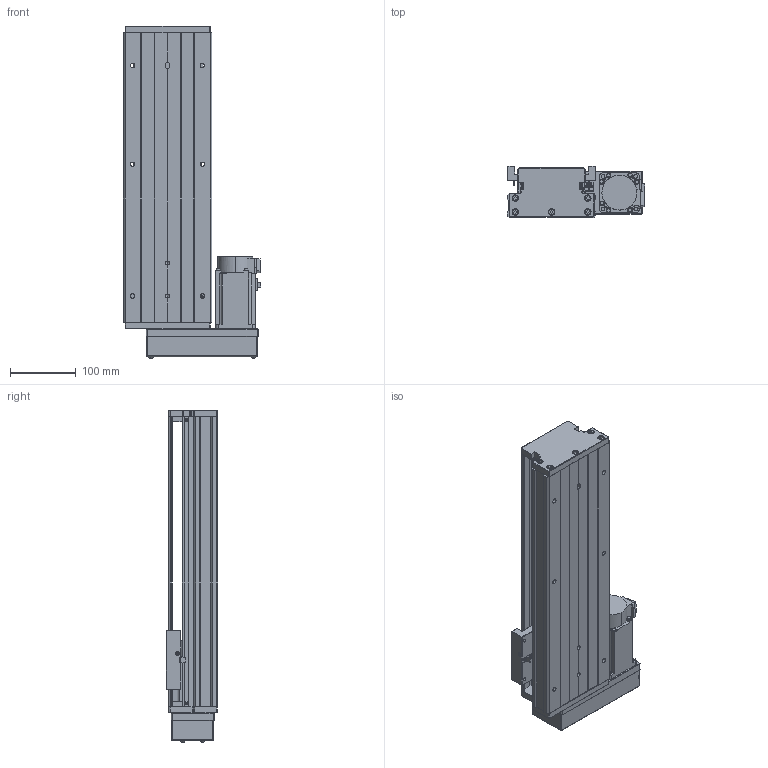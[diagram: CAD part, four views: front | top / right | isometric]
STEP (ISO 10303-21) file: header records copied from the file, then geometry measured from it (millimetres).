
FILE_DESCRIPTION (( 'STEP AP203' ), '1' );
FILE_NAME ('KTH130-300-BR-M40-C4.step', '2023-06-30T04:11:05', ( '微软用户' ), ( '微软中国' ), 'SwSTEP 2.0', 'SolidWorks 2020', '' );
FILE_SCHEMA (( 'CONFIG_CONTROL_DESIGN' ));
Length unit declared in the file: millimetre
Products named in the file (19): GTH14-015-2_CTHA86-015-2; KTH130-005; GBT 70.1-M3℅5; GTH14-033; GB1155-6X6; GBT77-2000 M3×3; KTH130-300-BR-M40-C4; GBT70.1 M5℅16; す晦芛蹟隊 M3℅5; GBT 70.2-M3¡Á5_M3¡Á6; GBT 70.3-M3℅8; GTH14-001_300; CTHA60-017; HG-KN43J-S100; KTH130-002_KTH130-002; EE_SX911P_R; GBT 70.2-M4¡Á35_M4¡Á35; KTH130-004; CTHA60-016
Assembly tree (53 placements, depth 2):
  KTH130-300-BR-M40-C4
    GTH14-001_300
    KTH130-002_KTH130-002
    KTH130-004
    KTH130-005
    GB1155-6X6  x2
    GBT70.1 M5℅16  x10
    GBT 70.2-M3¡Á5_M3¡Á6  x4
    CTHA60-017  x3
    EE_SX911P_R  x3
    CTHA60-016  x2
    GBT 70.1-M3℅5  x6
    GBT77-2000 M3×3  x6
    す晦芛蹟隊 M3℅5  x2
    GBT 70.3-M3℅8  x4
    HG-KN43J-S100
    GBT 70.2-M4¡Á35_M4¡Á35  x4
    GTH14-015-2_CTHA86-015-2
    GTH14-033
Bounding box: 209.3 x 78 x 504.2 mm (x, y, z)
Volume: 3108381.2 mm3; surface area: 548874 mm2
Topology: 56 solids, 56 shells, 2203 faces, 5318 edges, 3310 vertices
Faces by surface type: plane 1193, cylinder 596, cone 290, torus 100, sphere 24
Entity records: 39942 total; most frequent: CARTESIAN_POINT 8534, DIRECTION 5919, ORIENTED_EDGE 5836, EDGE_CURVE 2918, AXIS2_PLACEMENT_3D 2026, VECTOR 1867, LINE 1867, VERTEX_POINT 1863
